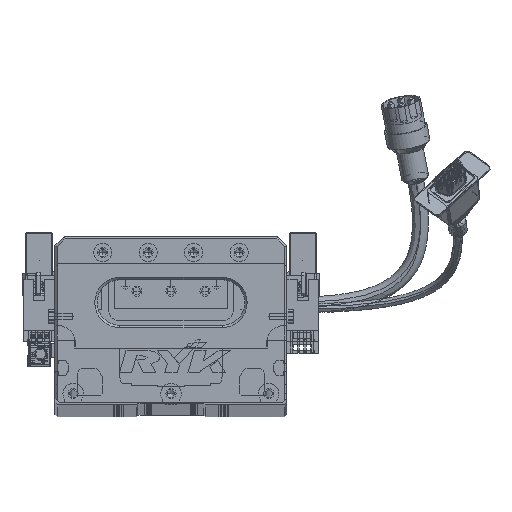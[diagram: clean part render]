
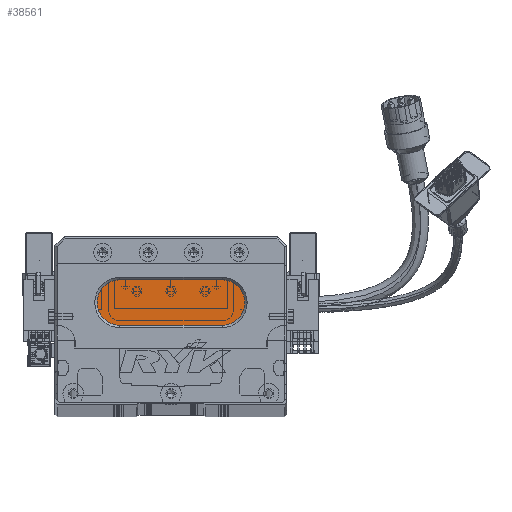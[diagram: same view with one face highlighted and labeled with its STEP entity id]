
A CAD part, top view. The second image highlights one B-rep face of the part: STEP entity #38561.
In plain terms, the highlighted planar face has unit normal (0, 0, 1) as drawn and (0, 0, -1) by its records, which use the part's own axes.
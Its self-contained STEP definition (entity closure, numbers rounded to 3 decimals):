
#1111 = EDGE_LOOP ( 'NONE', ( #15120, #33700, #40699, #4754, #34386 ) ) ;
#1603 = VECTOR ( 'NONE', #12464, 1000. ) ;
#2667 = DIRECTION ( 'NONE',  ( 0., 0., -1. ) ) ;
#3208 = CARTESIAN_POINT ( 'NONE',  ( 18.5, 44., 13. ) ) ;
#3873 = CARTESIAN_POINT ( 'NONE',  ( 73.5, 54., 13. ) ) ;
#4754 = ORIENTED_EDGE ( 'NONE', *, *, #56154, .T. ) ;
#5038 = CARTESIAN_POINT ( 'NONE',  ( 28.5, 34., 13. ) ) ;
#5814 = AXIS2_PLACEMENT_3D ( 'NONE', #78716, #51158, #49985 ) ;
#6890 = CARTESIAN_POINT ( 'NONE',  ( 73.5, 54., 13. ) ) ;
#9018 = CARTESIAN_POINT ( 'NONE',  ( 28.5, 44., 13. ) ) ;
#11786 = DIRECTION ( 'NONE',  ( 0., 0., -1. ) ) ;
#11908 = CARTESIAN_POINT ( 'NONE',  ( 73.5, 34., 13. ) ) ;
#12426 = DIRECTION ( 'NONE',  ( -1., 0., 0. ) ) ;
#12464 = DIRECTION ( 'NONE',  ( -1., 0., 0. ) ) ;
#15120 = ORIENTED_EDGE ( 'NONE', *, *, #51055, .T. ) ;
#16010 = EDGE_CURVE ( 'NONE', #49422, #48899, #33040, .T. ) ;
#16742 = LINE ( 'NONE', #6890, #30858 ) ;
#24208 = EDGE_CURVE ( 'NONE', #42111, #29140, #16742, .T. ) ;
#25805 = CARTESIAN_POINT ( 'NONE',  ( 28.5, 44., 13. ) ) ;
#25846 = CARTESIAN_POINT ( 'NONE',  ( 73.5, 34., 13. ) ) ;
#28697 = CARTESIAN_POINT ( 'NONE',  ( 28.5, 54., 13. ) ) ;
#29140 = VERTEX_POINT ( 'NONE', #3873 ) ;
#29685 = VERTEX_POINT ( 'NONE', #3208 ) ;
#30207 = PLANE ( 'NONE',  #5814 ) ;
#30858 = VECTOR ( 'NONE', #54773, 1000. ) ;
#33040 = LINE ( 'NONE', #25846, #1603 ) ;
#33700 = ORIENTED_EDGE ( 'NONE', *, *, #16010, .T. ) ;
#34386 = ORIENTED_EDGE ( 'NONE', *, *, #24208, .T. ) ;
#36923 = DIRECTION ( 'NONE',  ( -1., 0., 0. ) ) ;
#38561 = ADVANCED_FACE ( 'NONE', ( #65333 ), #30207, .T. ) ;
#39455 = CIRCLE ( 'NONE', #45029, 10. ) ;
#40699 = ORIENTED_EDGE ( 'NONE', *, *, #57439, .T. ) ;
#42111 = VERTEX_POINT ( 'NONE', #28697 ) ;
#44753 = AXIS2_PLACEMENT_3D ( 'NONE', #9018, #2667, #36923 ) ;
#45029 = AXIS2_PLACEMENT_3D ( 'NONE', #60314, #11786, #53630 ) ;
#48899 = VERTEX_POINT ( 'NONE', #5038 ) ;
#49422 = VERTEX_POINT ( 'NONE', #11908 ) ;
#49985 = DIRECTION ( 'NONE',  ( -1., 0., 0. ) ) ;
#51055 = EDGE_CURVE ( 'NONE', #29140, #49422, #39455, .T. ) ;
#51158 = DIRECTION ( 'NONE',  ( 0., 0., -1. ) ) ;
#53630 = DIRECTION ( 'NONE',  ( -1., 0., 0. ) ) ;
#54773 = DIRECTION ( 'NONE',  ( 1., 0., 0. ) ) ;
#56154 = EDGE_CURVE ( 'NONE', #29685, #42111, #74151, .T. ) ;
#57439 = EDGE_CURVE ( 'NONE', #48899, #29685, #64238, .T. ) ;
#60078 = DIRECTION ( 'NONE',  ( 0., 0., -1. ) ) ;
#60314 = CARTESIAN_POINT ( 'NONE',  ( 73.5, 44., 13. ) ) ;
#62303 = AXIS2_PLACEMENT_3D ( 'NONE', #25805, #60078, #12426 ) ;
#64238 = CIRCLE ( 'NONE', #62303, 10. ) ;
#65333 = FACE_OUTER_BOUND ( 'NONE', #1111, .T. ) ;
#74151 = CIRCLE ( 'NONE', #44753, 10. ) ;
#78716 = CARTESIAN_POINT ( 'NONE',  ( 73.5, 44., 13. ) ) ;
